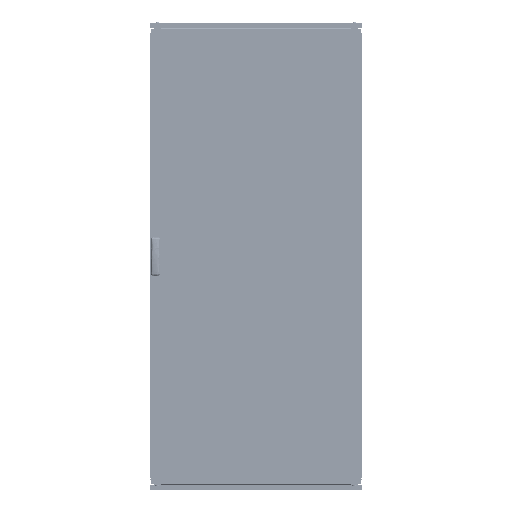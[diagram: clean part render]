
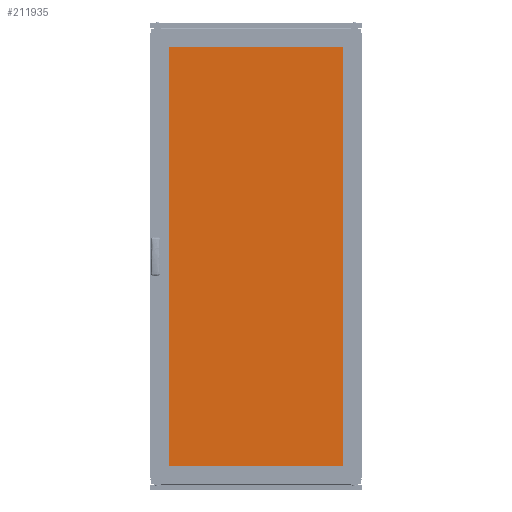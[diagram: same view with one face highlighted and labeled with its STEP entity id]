
A CAD part, top view. The second image highlights one B-rep face of the part: STEP entity #211935.
In plain terms, the highlighted planar face has unit normal (0, 0, 1).
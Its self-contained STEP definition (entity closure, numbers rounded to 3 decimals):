
#2434 = VERTEX_POINT ( 'NONE', #231906 ) ;
#13421 = CARTESIAN_POINT ( 'NONE',  ( 430., 1010., 5. ) ) ;
#17283 = CARTESIAN_POINT ( 'NONE',  ( -430., -1010., 5. ) ) ;
#18342 = VERTEX_POINT ( 'NONE', #13421 ) ;
#18491 = DIRECTION ( 'NONE',  ( 0., -1., 0. ) ) ;
#28449 = DIRECTION ( 'NONE',  ( 0., 1., 0. ) ) ;
#31349 = PLANE ( 'NONE',  #96869 ) ;
#37242 = EDGE_CURVE ( 'NONE', #18342, #224109, #134062, .T. ) ;
#38227 = CARTESIAN_POINT ( 'NONE',  ( 430., -1010., 5. ) ) ;
#43787 = VECTOR ( 'NONE', #18491, 1000. ) ;
#47706 = CARTESIAN_POINT ( 'NONE',  ( -430., -1010., 5. ) ) ;
#53893 = CARTESIAN_POINT ( 'NONE',  ( -430., 1010., 5. ) ) ;
#59654 = ORIENTED_EDGE ( 'NONE', *, *, #84622, .T. ) ;
#65710 = CARTESIAN_POINT ( 'NONE',  ( 0., 0., 5. ) ) ;
#78830 = EDGE_LOOP ( 'NONE', ( #149067, #235267, #224788, #59654 ) ) ;
#84622 = EDGE_CURVE ( 'NONE', #2434, #226247, #215550, .T. ) ;
#91585 = VECTOR ( 'NONE', #28449, 1000. ) ;
#96784 = VECTOR ( 'NONE', #227154, 1000. ) ;
#96869 = AXIS2_PLACEMENT_3D ( 'NONE', #65710, #196809, #182003 ) ;
#104000 = DIRECTION ( 'NONE',  ( 1., 0., 0. ) ) ;
#109685 = EDGE_CURVE ( 'NONE', #224109, #2434, #223036, .T. ) ;
#125642 = FACE_OUTER_BOUND ( 'NONE', #78830, .T. ) ;
#134062 = LINE ( 'NONE', #154832, #96784 ) ;
#141925 = EDGE_CURVE ( 'NONE', #226247, #18342, #160663, .T. ) ;
#148468 = VECTOR ( 'NONE', #104000, 1000. ) ;
#149067 = ORIENTED_EDGE ( 'NONE', *, *, #141925, .T. ) ;
#154832 = CARTESIAN_POINT ( 'NONE',  ( -430., 1010., 5. ) ) ;
#160663 = LINE ( 'NONE', #213453, #91585 ) ;
#182003 = DIRECTION ( 'NONE',  ( -1., 0., 0. ) ) ;
#196809 = DIRECTION ( 'NONE',  ( 0., 0., -1. ) ) ;
#211935 = ADVANCED_FACE ( 'NONE', ( #125642 ), #31349, .F. ) ;
#213453 = CARTESIAN_POINT ( 'NONE',  ( 430., -1010., 5. ) ) ;
#215550 = LINE ( 'NONE', #47706, #148468 ) ;
#223036 = LINE ( 'NONE', #17283, #43787 ) ;
#224109 = VERTEX_POINT ( 'NONE', #53893 ) ;
#224788 = ORIENTED_EDGE ( 'NONE', *, *, #109685, .T. ) ;
#226247 = VERTEX_POINT ( 'NONE', #38227 ) ;
#227154 = DIRECTION ( 'NONE',  ( -1., 0., 0. ) ) ;
#231906 = CARTESIAN_POINT ( 'NONE',  ( -430., -1010., 5. ) ) ;
#235267 = ORIENTED_EDGE ( 'NONE', *, *, #37242, .T. ) ;
